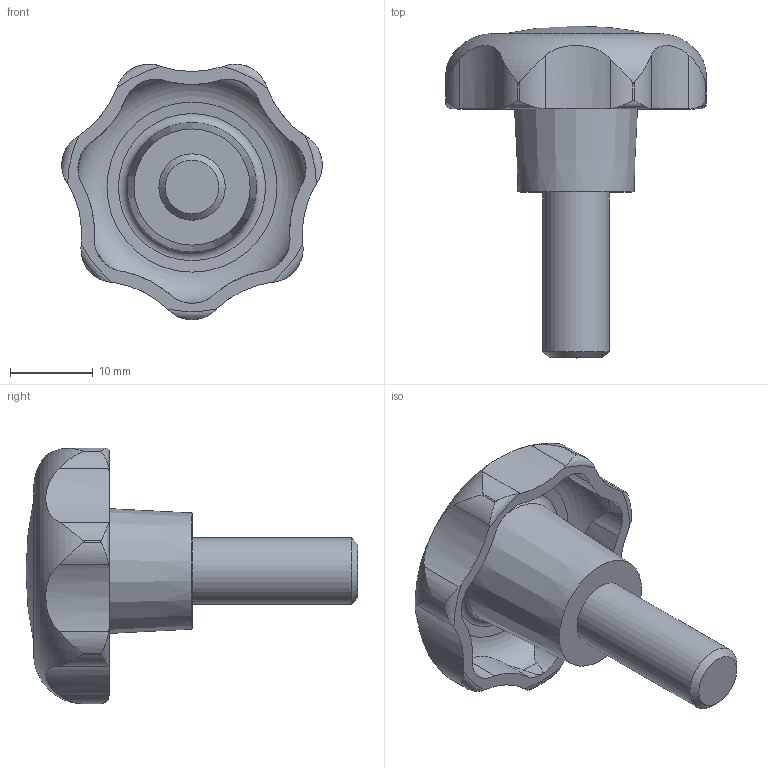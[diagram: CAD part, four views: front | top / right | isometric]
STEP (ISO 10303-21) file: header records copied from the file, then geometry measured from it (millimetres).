
FILE_DESCRIPTION( ( 'STEP AP203' ), '1' );
FILE_NAME( 'C:/Temp/Ganter_Step_05_03_2020/data/2_2/gn_6336_4/gn_6336_4_st/Star knob GN 6336.4-ST-32-M8-20.stp', '2020-03-05T12:07:24', ( 'License CC BY-ND 4.0' ), ( 'CADENAS' ), ' ', 'PARTsolutions', ' ' );
FILE_SCHEMA( ( 'CONFIG_CONTROL_DESIGN' ) );
Length unit declared in the file: millimetre
Products named in the file (1): _Star knob GN 6336.4-ST-32-M8-20
Bounding box: 31.4 x 40 x 30.81 mm (x, y, z)
Volume: 6803.6 mm3; surface area: 3674 mm2
Topology: 1 solids, 1 shells, 74 faces, 209 edges, 138 vertices
Faces by surface type: cylinder 50, torus 10, cone 10, plane 3, sphere 1
Full cylindrical faces by diameter (mm): 8 x1
Entity records: 3221 total; most frequent: CARTESIAN_POINT 1406, ORIENTED_EDGE 394, DIRECTION 336, EDGE_CURVE 197, AXIS2_PLACEMENT_3D 147, VERTEX_POINT 136, EDGE_LOOP 83, B_SPLINE_CURVE_WITH_KNOTS 83
